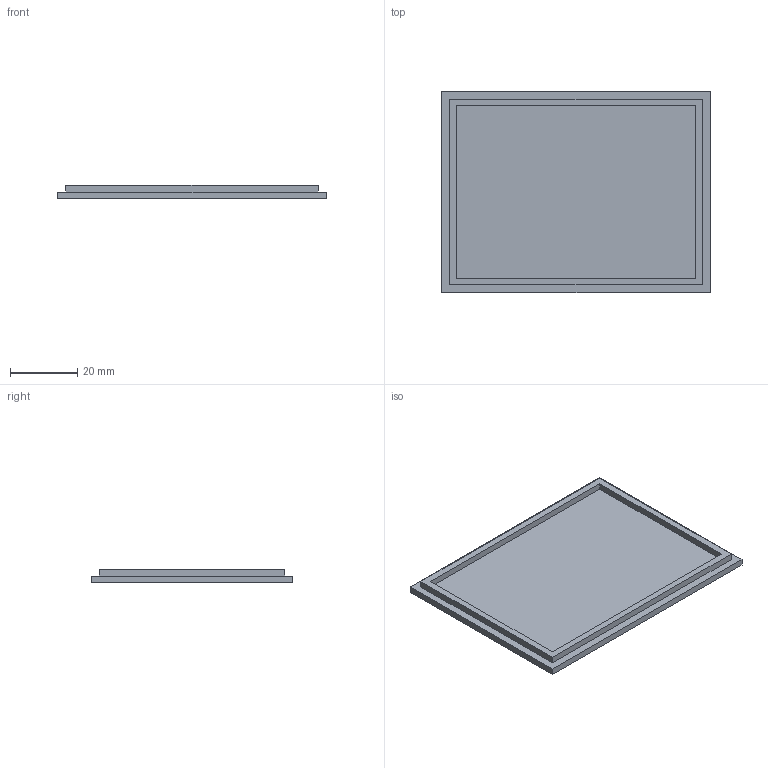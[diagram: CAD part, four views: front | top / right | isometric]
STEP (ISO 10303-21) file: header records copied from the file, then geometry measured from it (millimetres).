
FILE_DESCRIPTION(('Open CASCADE Model'),'2;1');
FILE_NAME('Open CASCADE Shape Model','2026-09-05T12:24:21',('Author'),( 'Open CASCADE'),'Open CASCADE STEP processor 7.8','build123d', 'Unknown');
FILE_SCHEMA(('AUTOMOTIVE_DESIGN { 1 0 10303 214 1 1 1 1 }'));
Length unit declared in the file: millimetre
Products named in the file (1): SOLID
Bounding box: 80 x 60 x 4 mm (x, y, z)
Volume: 10614.4 mm3; surface area: 11174.4 mm2
Topology: 1 solids, 1 shells, 16 faces, 36 edges, 24 vertices
Faces by surface type: plane 16
Entity records: 910 total; most frequent: CARTESIAN_POINT 157, DIRECTION 134, LINE 100, VECTOR 100, ORIENTED_EDGE 72, PCURVE 72, DEFINITIONAL_REPRESENTATION 72, EDGE_CURVE 36
